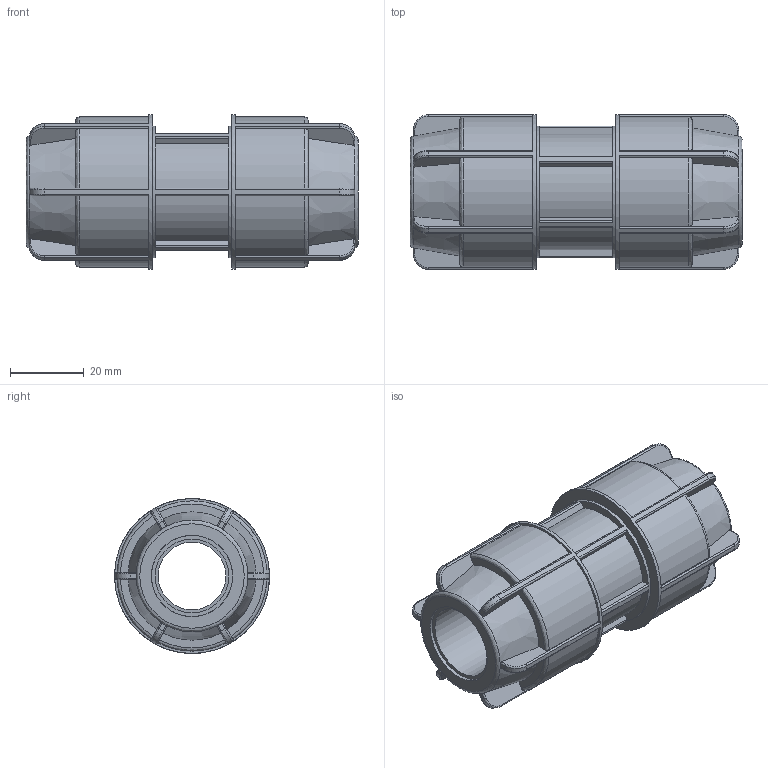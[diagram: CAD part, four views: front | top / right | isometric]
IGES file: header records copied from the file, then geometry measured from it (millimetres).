
Global section: file name: 140100020.ipt; native system: Autodesk Inventor 2015; preprocessor: unknown; author: KIM; date: 20180612.155247; units: millimetre
Bounding box: 90 x 42 x 42 mm (x, y, z)
Volume: 67383.4 mm3; surface area: 20650.5 mm2
Topology: 1 solids, 1 shells, 230 faces, 609 edges, 392 vertices
Faces by surface type: plane 92, cylinder 81, revolution 31, bspline 24, cone 2
Full cylindrical faces by diameter (mm): 35.7 x1, 42 x2
